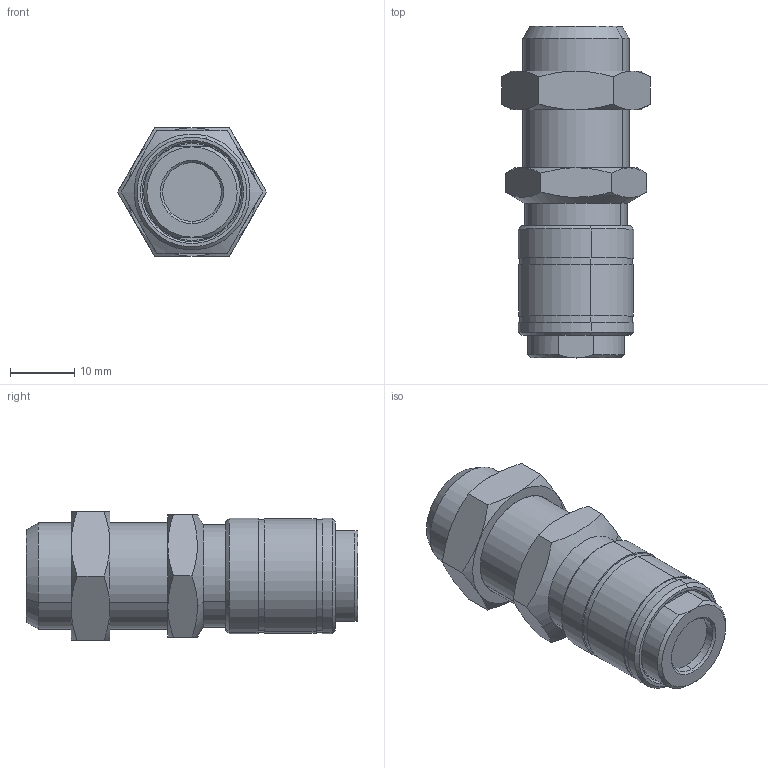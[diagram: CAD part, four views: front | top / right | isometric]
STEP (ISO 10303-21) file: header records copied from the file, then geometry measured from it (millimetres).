
FILE_DESCRIPTION (( 'STEP AP214' ), '1' );
FILE_NAME ('0011600003.step', '2012-11-15T17:58:29', ( '' ), ( '' ), 'SwSTEP 2.0', 'SolidWorks 2012', '' );
FILE_SCHEMA (( 'AUTOMOTIVE_DESIGN' ));
Length unit declared in the file: millimetre
Products named in the file (1): 0011600003
Bounding box: 23.09 x 51.5 x 20 mm (x, y, z)
Volume: 12200.7 mm3; surface area: 4261.4 mm2
Topology: 1 solids, 1 shells, 97 faces, 210 edges, 128 vertices
Faces by surface type: cone 40, plane 31, cylinder 26
Entity records: 3949 total; most frequent: CARTESIAN_POINT 746, DIRECTION 456, ORIENTED_EDGE 420, EDGE_CURVE 210, AXIS2_PLACEMENT_3D 196, VERTEX_POINT 128, EDGE_LOOP 110, UNCERTAINTY_MEASURE_WITH_UNIT 100
